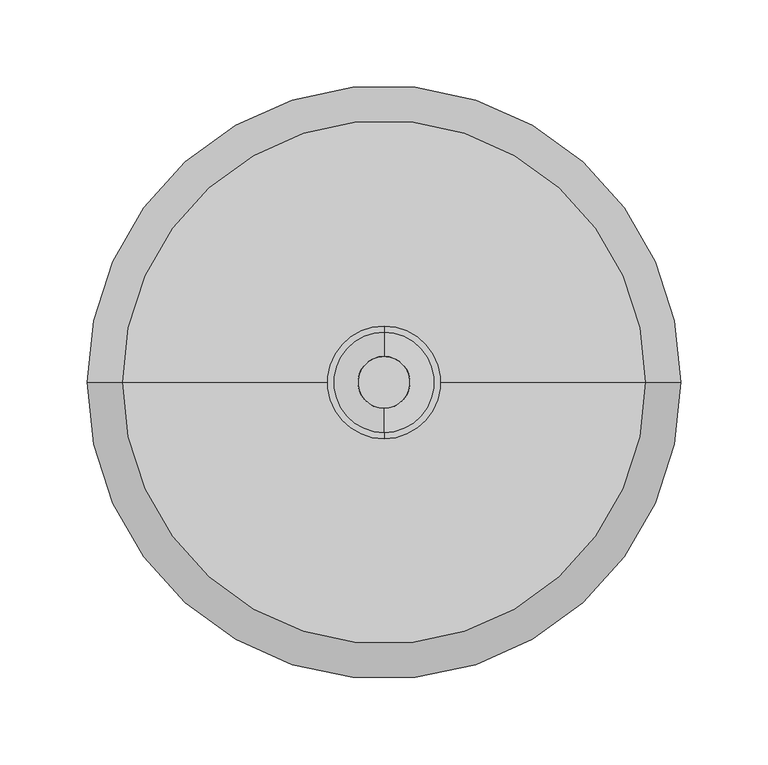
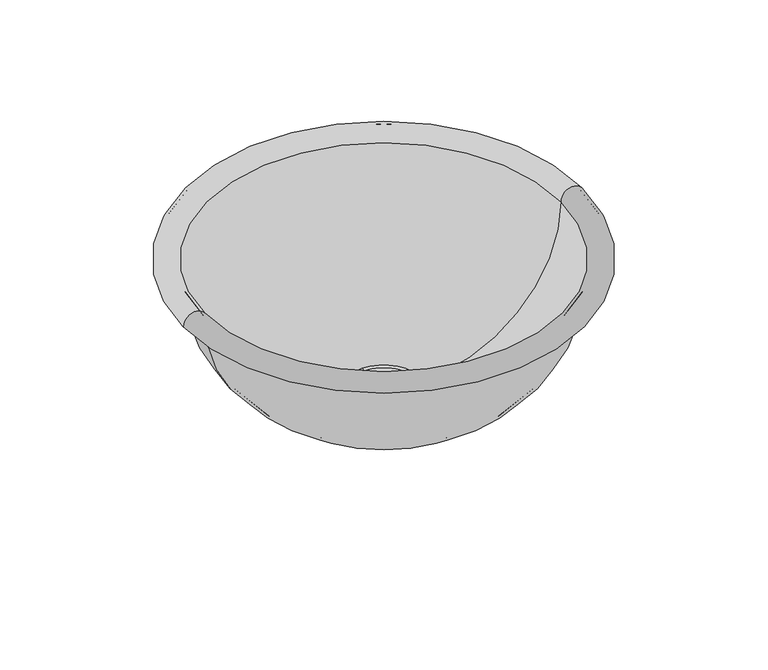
"""IFC4 building model written with IfcOpenShell, lengths in millimetres: flow terminal geometry, APSA-I-AI-Bacha Circular Sobreponer-PET : APSA-I-AI-Bacha Circular Sobreponer-30cm-PET."""

from ifc_helpers import new_model, si_unit, point, frame, origin, origin_2d, place, context, project, spatial, polyline, circle_curve, ellipse_curve, trimmed, segment, composite_curve, outline, extrude, source, transform, mapped, element, save
from ifc_brep_helpers import plane_surface, cylinder_surface, revolved_surface, advanced_brep


def flow_terminal_6fa54989(model_context):
    return source(origin(), model_context, "Body", "SolidModel", [
        advanced_brep(
        [(0.0, -32.273037, -116.6155158), (0.0, 32.273037, -116.6155158), (0.0, 32.273037, -119.5003056), (0.0, -32.273037, -119.5003056), (0.0, -30.2142161, -125.02478), (0.0, 30.2142161, -125.02478), (0.0, 24.451577, -125.02478), (0.0, -24.451577, -125.02478), (0.0, -31.1325418, -124.1379632), (0.0, 31.1325418, -124.1379632), (0.0, -31.2944924, -119.5003056), (0.0, 31.2944924, -119.5003056), (0.0, -16.0, -135.0003043), (0.0, 16.0, -135.0003043), (0.0, 0.0, -135.0003043), (0.0, -28.8300718, -116.6155158), (0.0, 28.8300718, -116.6155158), (0.0, -14.8864823, -118.8239634), (0.0, 14.8864823, -118.8239634), (0.0, -14.4961959, -130.0003043), (0.0, 14.4961959, -130.0003043), (0.0, 0.0, -130.0003043), (0.0, -16.0, -130.9701225), (0.0, 16.0, -130.9701225), (0.0, -21.9298145, -127.5465425), (0.0, 21.9298145, -127.5465425)],
        [
            (0, 1, circle_curve(frame((0.0, 0.0, -116.6155158), z_axis=(0.0, 0.0, -1.0), x_axis=(0.0, 1.0, 0.0)), 32.273037)),
            (1, 2),
            (2, 3, circle_curve(frame((0.0, 0.0, -119.5003056), z_axis=(0.0, 0.0, 1.0), x_axis=(0.0, 1.0, 0.0)), 32.273037)),
            (3, 0),
            (1, 0, circle_curve(frame((0.0, 0.0, -116.6155158), z_axis=(0.0, 0.0, -1.0), x_axis=(0.0, 1.0, 0.0)), 32.273037)),
            (3, 2, circle_curve(frame((0.0, 0.0, -119.5003056), z_axis=(0.0, 0.0, 1.0), x_axis=(0.0, 1.0, 0.0)), 32.273037)),
            (4, 5, circle_curve(frame((0.0, 0.0, -125.02478), z_axis=(0.0, 0.0, -1.0), x_axis=(0.0, 1.0, 0.0)), 30.2142161)),
            (5, 6),
            (6, 7, circle_curve(frame((0.0, 0.0, -125.02478), z_axis=(0.0, 0.0, 1.0), x_axis=(0.0, 1.0, 0.0)), 24.451577)),
            (7, 4),
            (5, 4, circle_curve(frame((0.0, 0.0, -125.02478), z_axis=(0.0, 0.0, -1.0), x_axis=(0.0, 1.0, 0.0)), 30.2142161)),
            (7, 6, circle_curve(frame((0.0, 0.0, -125.02478), z_axis=(0.0, 0.0, 1.0), x_axis=(0.0, 1.0, 0.0)), 24.451577)),
            (8, 9, circle_curve(frame((0.0, 0.0, -124.1379632), z_axis=(0.0, 0.0, -1.0), x_axis=(0.0, 1.0, 0.0)), 31.1325418)),
            (9, 5, circle_curve(frame((0.0, 30.2142161, -124.1058946), z_axis=(-1.0, 0.0, 0.0), x_axis=(0.0, 1.0, 0.0)), 0.9188855)),
            (4, 8, circle_curve(frame((0.0, -30.2142161, -124.1058946), z_axis=(-1.0, 0.0, 0.0), x_axis=(0.0, -1.0, 0.0)), 0.9188855)),
            (9, 8, circle_curve(frame((0.0, 0.0, -124.1379632), z_axis=(0.0, 0.0, -1.0), x_axis=(0.0, 1.0, 0.0)), 31.1325418)),
            (10, 11, circle_curve(frame((0.0, 0.0, -119.5003056), z_axis=(0.0, 0.0, -1.0), x_axis=(0.0, 1.0, 0.0)), 31.2944924)),
            (11, 9),
            (8, 10),
            (11, 10, circle_curve(frame((0.0, 0.0, -119.5003056), z_axis=(0.0, 0.0, -1.0), x_axis=(0.0, 1.0, 0.0)), 31.2944924)),
            (2, 11),
            (10, 3),
            (12, 13, circle_curve(frame((0.0, 0.0, -135.0003043), z_axis=(0.0, 0.0, -1.0), x_axis=(0.0, 1.0, 0.0)), 16.0)),
            (13, 14),
            (14, 12),
            (13, 12, circle_curve(frame((0.0, 0.0, -135.0003043), z_axis=(0.0, 0.0, -1.0), x_axis=(0.0, 1.0, 0.0)), 16.0)),
            (15, 16, circle_curve(frame((0.0, 0.0, -116.6155158), z_axis=(0.0, 0.0, -1.0), x_axis=(0.0, 1.0, 0.0)), 28.8300718)),
            (16, 1),
            (0, 15),
            (16, 15, circle_curve(frame((0.0, 0.0, -116.6155158), z_axis=(0.0, 0.0, -1.0), x_axis=(0.0, 1.0, 0.0)), 28.8300718)),
            (17, 18, circle_curve(frame((0.0, 0.0, -118.8239634), z_axis=(0.0, 0.0, -1.0), x_axis=(0.0, 1.0, 0.0)), 14.8864823)),
            (18, 16),
            (15, 17),
            (18, 17, circle_curve(frame((0.0, 0.0, -118.8239634), z_axis=(0.0, 0.0, -1.0), x_axis=(0.0, 1.0, 0.0)), 14.8864823)),
            (19, 20, circle_curve(frame((0.0, 0.0, -130.0003043), z_axis=(0.0, 0.0, -1.0), x_axis=(0.0, 1.0, 0.0)), 14.4961959)),
            (20, 18),
            (17, 19),
            (20, 19, circle_curve(frame((0.0, 0.0, -130.0003043), z_axis=(0.0, 0.0, -1.0), x_axis=(0.0, 1.0, 0.0)), 14.4961959)),
            (21, 20),
            (19, 21),
            (22, 23, circle_curve(frame((0.0, 0.0, -130.9701225), z_axis=(0.0, 0.0, -1.0), x_axis=(0.0, 1.0, 0.0)), 16.0)),
            (23, 13),
            (12, 22),
            (23, 22, circle_curve(frame((0.0, 0.0, -130.9701225), z_axis=(0.0, 0.0, -1.0), x_axis=(0.0, 1.0, 0.0)), 16.0)),
            (24, 25, circle_curve(frame((0.0, 0.0, -127.5465425), z_axis=(0.0, 0.0, -1.0), x_axis=(0.0, 1.0, 0.0)), 21.9298145)),
            (25, 23),
            (22, 24),
            (25, 24, circle_curve(frame((0.0, 0.0, -127.5465425), z_axis=(0.0, 0.0, -1.0), x_axis=(0.0, 1.0, 0.0)), 21.9298145)),
            (6, 25),
            (24, 7),
        ],
        [
            cylinder_surface(frame((0.0, 0.0, 2616.479869), z_axis=(0.0, 0.0, 1.0), x_axis=(0.0, 1.0, 0.0)), 32.273037),
            plane_surface(frame((0.0, 0.0, -125.02478), z_axis=(0.0, 0.0, -1.0), x_axis=(0.0, 1.0, 0.0))),
            revolved_surface(trimmed(ellipse_curve(frame((0.0, 30.2142161, -124.1058946), z_axis=(1.0, 0.0, 0.0), x_axis=(0.0, 1.0, 0.0)), 0.9188855, 0.9188855), [point((0.0, 30.2142161, -125.02478))], [point((0.0, 31.1325418, -124.1379632))], True, "CARTESIAN"), (0.0, 0.0, 2616.479869), (0.0, 0.0, 1.0)),
            revolved_surface(polyline([(0.0, 31.1325418, -124.1379632), (0.0, 31.2944924, -119.5003056)]), (0.0, 0.0, 2616.479869), (0.0, 0.0, 1.0)),
            plane_surface(frame((0.0, 0.0, -119.5003056), z_axis=(0.0, 0.0, -1.0), x_axis=(0.0, 1.0, 0.0))),
            plane_surface(frame((0.0, 0.0, -135.0003043), z_axis=(0.0, 0.0, -1.0), x_axis=(0.0, 1.0, 0.0))),
            plane_surface(frame((0.0, 0.0, -116.6155158), z_axis=(0.0, 0.0, 1.0), x_axis=(0.0, 1.0, 0.0))),
            revolved_surface(polyline([(0.0, 28.8300718, -116.6155158), (0.0, 14.8864823, -118.8239634)]), (0.0, 0.0, 2616.479869), (0.0, 0.0, 1.0)),
            revolved_surface(polyline([(0.0, 14.8864823, -118.8239634), (0.0, 14.4961959, -130.0003043)]), (0.0, 0.0, 2616.479869), (0.0, 0.0, 1.0)),
            plane_surface(frame((0.0, 0.0, -130.0003043), z_axis=(0.0, 0.0, 1.0), x_axis=(0.0, 1.0, 0.0))),
            cylinder_surface(frame((0.0, 0.0, 2616.479869), z_axis=(0.0, 0.0, 1.0), x_axis=(0.0, 1.0, 0.0)), 16.0),
            revolved_surface(polyline([(0.0, 16.0, -130.9701225), (0.0, 21.9298145, -127.5465425)]), (0.0, 0.0, 2616.479869), (0.0, 0.0, 1.0)),
            revolved_surface(polyline([(0.0, 21.9298145, -127.5465425), (0.0, 24.451577, -125.02478)]), (0.0, 0.0, 2616.479869), (0.0, 0.0, 1.0)),
        ],
        [
            (0, [[1, 2, 3, 4]]),
            (0, [[5, -4, 6, -2]]),
            (1, [[7, 8, 9, 10]]),
            (1, [[11, -10, 12, -8]]),
            (2, [[13, 14, -7, 15]]),
            (2, [[16, -15, -11, -14]]),
            (3, [[17, 18, -13, 19]]),
            (3, [[20, -19, -16, -18]]),
            (4, [[-3, 21, -17, 22]]),
            (4, [[-6, -22, -20, -21]]),
            (5, [[23, 24, 25]]),
            (5, [[26, -25, -24]]),
            (6, [[27, 28, -1, 29]]),
            (6, [[30, -29, -5, -28]]),
            (7, [[31, 32, -27, 33]]),
            (7, [[34, -33, -30, -32]]),
            (8, [[35, 36, -31, 37]]),
            (8, [[38, -37, -34, -36]]),
            (9, [[39, -35, 40]]),
            (9, [[-40, -38, -39]]),
            (10, [[41, 42, -23, 43]]),
            (10, [[44, -43, -26, -42]]),
            (11, [[45, 46, -41, 47]]),
            (11, [[48, -47, -44, -46]]),
            (12, [[-9, 49, -45, 50]]),
            (12, [[-12, -50, -48, -49]]),
        ],
    ),
        extrude(outline(composite_curve([segment(trimmed(circle_curve(origin_2d(), 16.0), [point((-16.0, 0.0))], [point((16.0, 0.0))], False, "CARTESIAN"), True, "CONTINUOUS"), segment(trimmed(circle_curve(origin_2d(), 16.0), [point((16.0, 0.0))], [point((-16.0, 0.0))], False, "CARTESIAN"), True, "CONTINUOUS")], self_intersect=False)), frame((0.0, 0.0, -144.0056492), z_axis=(0.0, 0.0, 1.0), x_axis=(1.0, 0.0, 0.0)), (0.0, 0.0, 1.0), 9.0),
        advanced_brep(
        [(170.0, 0.0, 0.0), (-170.0, 0.0, 0.0), (-150.0, 0.0, 0.0), (150.0, 0.0, 0.0), (168.0, 0.0, 0.0), (-168.0, 0.0, 0.0), (152.0, 0.0, 0.0), (-152.0, 0.0, 0.0), (25.0, 0.0, -122.0016393), (-25.0, 0.0, -122.0016393), (25.0, 0.0, -120.0), (-25.0, 0.0, -120.0)],
        [
            (0, 1, circle_curve(frame((0.0, 0.0, 0.0), z_axis=(0.0, 0.0, 1.0), x_axis=(-1.0, 0.0, 0.0)), 170.0)),
            (1, 2, circle_curve(frame((-160.0, 0.0, 0.0), z_axis=(0.0, 1.0, 0.0), x_axis=(1.0, 0.0, 0.0)), 10.0)),
            (2, 3, circle_curve(frame((0.0, 0.0, 0.0), z_axis=(0.0, 0.0, -1.0), x_axis=(-1.0, 0.0, 0.0)), 150.0)),
            (3, 0, circle_curve(frame((160.0, 0.0, 0.0), z_axis=(0.0, 1.0, 0.0), x_axis=(-1.0, 0.0, 0.0)), 10.0)),
            (1, 0, circle_curve(frame((0.0, 0.0, 0.0), z_axis=(0.0, 0.0, 1.0), x_axis=(-1.0, 0.0, 0.0)), 170.0)),
            (3, 2, circle_curve(frame((0.0, 0.0, 0.0), z_axis=(0.0, 0.0, -1.0), x_axis=(-1.0, 0.0, 0.0)), 150.0)),
            (4, 5, circle_curve(frame((0.0, 0.0, 0.0), z_axis=(0.0, 0.0, 1.0), x_axis=(-1.0, 0.0, 0.0)), 168.0)),
            (5, 1),
            (0, 4),
            (5, 4, circle_curve(frame((0.0, 0.0, 0.0), z_axis=(0.0, 0.0, 1.0), x_axis=(-1.0, 0.0, 0.0)), 168.0)),
            (6, 7, circle_curve(frame((0.0, 0.0, 0.0), z_axis=(0.0, 0.0, 1.0), x_axis=(-1.0, 0.0, 0.0)), 152.0)),
            (7, 5, circle_curve(frame((-160.0, 0.0, 0.0), z_axis=(0.0, -1.0, 0.0), x_axis=(1.0, 0.0, 0.0)), 8.0)),
            (4, 6, circle_curve(frame((160.0, 0.0, 0.0), z_axis=(0.0, -1.0, 0.0), x_axis=(-1.0, 0.0, 0.0)), 8.0)),
            (7, 6, circle_curve(frame((0.0, 0.0, 0.0), z_axis=(0.0, 0.0, 1.0), x_axis=(-1.0, 0.0, 0.0)), 152.0)),
            (8, 9, circle_curve(frame((0.0, 0.0, -122.0016393), z_axis=(0.0, 0.0, 1.0), x_axis=(-1.0, 0.0, 0.0)), 25.0)),
            (9, 7, circle_curve(frame((-29.9, 0.0, 0.0), z_axis=(0.0, 1.0, 0.0), x_axis=(1.0, 0.0, 0.0)), 122.1)),
            (6, 8, circle_curve(frame((29.9, 0.0, 0.0), z_axis=(0.0, 1.0, 0.0), x_axis=(-1.0, 0.0, 0.0)), 122.1)),
            (9, 8, circle_curve(frame((0.0, 0.0, -122.0016393), z_axis=(0.0, 0.0, 1.0), x_axis=(-1.0, 0.0, 0.0)), 25.0)),
            (10, 11, circle_curve(frame((0.0, 0.0, -120.0), z_axis=(0.0, 0.0, 1.0), x_axis=(-1.0, 0.0, 0.0)), 25.0)),
            (11, 9),
            (8, 10),
            (11, 10, circle_curve(frame((0.0, 0.0, -120.0), z_axis=(0.0, 0.0, 1.0), x_axis=(-1.0, 0.0, 0.0)), 25.0)),
            (2, 11, circle_curve(frame((-29.9, 0.0, 0.0), z_axis=(0.0, -1.0, 0.0), x_axis=(1.0, 0.0, 0.0)), 120.1)),
            (10, 3, circle_curve(frame((29.9, 0.0, 0.0), z_axis=(0.0, -1.0, 0.0), x_axis=(-1.0, 0.0, 0.0)), 120.1)),
        ],
        [
            revolved_surface(trimmed(ellipse_curve(frame((-160.0, 0.0, 0.0), z_axis=(0.0, -1.0, 0.0), x_axis=(1.0, 0.0, 0.0)), 10.0, 10.0), [point((-150.0, 0.0, 0.0))], [point((-170.0, 0.0, 0.0))], True, "CARTESIAN"), (0.0, 0.0, 80.0), (0.0, 0.0, -1.0)),
            plane_surface(frame((0.0, 0.0, 0.0), z_axis=(0.0, 0.0, -1.0), x_axis=(-1.0, 0.0, 0.0))),
            revolved_surface(trimmed(ellipse_curve(frame((-160.0, 0.0, 0.0), z_axis=(0.0, 1.0, 0.0), x_axis=(1.0, 0.0, 0.0)), 8.0, 8.0), [point((-168.0, 0.0, 0.0))], [point((-152.0, 0.0, 0.0))], True, "CARTESIAN"), (0.0, 0.0, 80.0), (0.0, 0.0, -1.0)),
            revolved_surface(trimmed(ellipse_curve(frame((-29.9, 0.0, 0.0), z_axis=(0.0, -1.0, 0.0), x_axis=(1.0, 0.0, 0.0)), 122.1, 122.1), [point((-152.0, 0.0, 0.0))], [point((-25.0, 0.0, -122.0016393))], True, "CARTESIAN"), (0.0, 0.0, 80.0), (0.0, 0.0, -1.0)),
            revolved_surface(polyline([(-25.0, 0.0, -122.0016393), (-25.0, 0.0, -120.0)]), (0.0, 0.0, 80.0), (0.0, 0.0, -1.0)),
            revolved_surface(trimmed(ellipse_curve(frame((-29.9, 0.0, 0.0), z_axis=(0.0, 1.0, 0.0), x_axis=(1.0, 0.0, 0.0)), 120.1, 120.1), [point((-25.0, 0.0, -120.0))], [point((-150.0, 0.0, 0.0))], True, "CARTESIAN"), (0.0, 0.0, 80.0), (0.0, 0.0, -1.0)),
        ],
        [
            (0, [[1, 2, 3, 4]]),
            (0, [[5, -4, 6, -2]]),
            (1, [[7, 8, -1, 9]]),
            (1, [[10, -9, -5, -8]]),
            (2, [[11, 12, -7, 13]]),
            (2, [[14, -13, -10, -12]]),
            (3, [[15, 16, -11, 17]]),
            (3, [[18, -17, -14, -16]]),
            (4, [[19, 20, -15, 21]]),
            (4, [[22, -21, -18, -20]]),
            (5, [[-3, 23, -19, 24]]),
            (5, [[-6, -24, -22, -23]]),
        ],
    ),
        extrude(outline(composite_curve([segment(trimmed(circle_curve(origin_2d(), 25.0), [point((-25.0, 0.0))], [point((25.0, 0.0))], False, "CARTESIAN"), True, "CONTINUOUS"), segment(trimmed(circle_curve(origin_2d(), 25.0), [point((25.0, 0.0))], [point((-25.0, 0.0))], False, "CARTESIAN"), True, "CONTINUOUS")], self_intersect=False)), frame((0.0, 0.0, -122.0016393), z_axis=(0.0, 0.0, 1.0), x_axis=(1.0, 0.0, 0.0)), (0.0, 0.0, 1.0), 2.0016393),
    ])


if __name__ == "__main__":
    model = new_model("IFC4")
    model_context = context("Model", 3, world=origin())
    ifc_project = project(units=[si_unit("LENGTHUNIT", "METRE", prefix="MILLI")], contexts=[model_context])
    site = spatial("IfcSite", under=ifc_project)
    building = spatial("IfcBuilding", under=site)
    placement = place(None, origin())
    flow_terminal_shape = flow_terminal_6fa54989(model_context)
    element("IfcFlowTerminal", 1, ObjectType="APSA-I-AI-Bacha Circular Sobreponer-PET : APSA-I-AI-Bacha Circular Sobreponer-30cm-PET", at=placement, inside=building, context=model_context, shape_type="MappedRepresentation", body=[
        mapped(flow_terminal_shape, transform((0.0, 0.0, 0.0), x_axis=(1.0, 0.0, 0.0), y_axis=(0.0, 1.0, 0.0), z_axis=(0.0, 0.0, 1.0))),
    ])
    save(model, "model.ifc")
